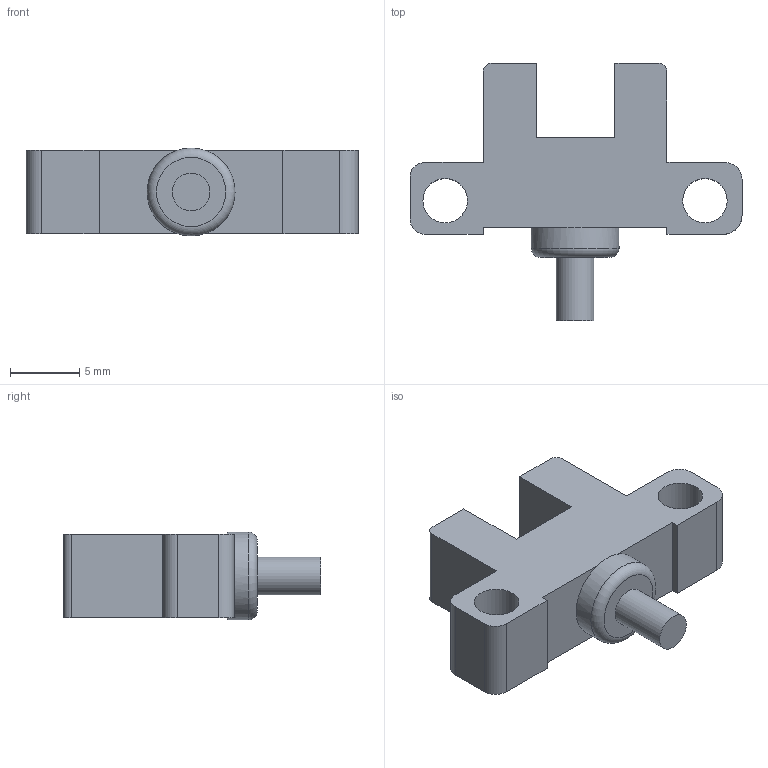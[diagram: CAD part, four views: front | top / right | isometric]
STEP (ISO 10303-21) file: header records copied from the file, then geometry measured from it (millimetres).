
FILE_DESCRIPTION(/* description */ ('Unknown'),/* implementation_level */ '2;1');
FILE_NAME(/* name */ 'PM-K25-P',/* time_stamp */ '2023-02-01T17:33:49+02:00',/* author */ ('Unknown'),/* organization */ ('Unknown'),/* preprocessor_version */ 'ST-DEVELOPER v18.102',/* originating_system */ 'Solid Edge',/* authorisation */ 'Unknown');
FILE_SCHEMA (('AUTOMOTIVE_DESIGN {1 0 10303 214 3 1 1}'));
Length unit declared in the file: millimetre
Products named in the file (1): PM-K25-P
Bounding box: 23.9 x 18.51 x 6.32 mm (x, y, z)
Volume: 1073.9 mm3; surface area: 1013.6 mm2
Topology: 1 solids, 1 shells, 34 faces, 88 edges, 57 vertices
Faces by surface type: plane 23, cylinder 10, torus 1
Full cylindrical faces by diameter (mm): 2.714 x1, 3.2 x2, 6.324 x1
Entity records: 1272 total; most frequent: DIRECTION 176, CARTESIAN_POINT 173, ORIENTED_EDGE 164, EDGE_CURVE 82, AXIS2_PLACEMENT_3D 59, LINE 58, VECTOR 58, VERTEX_POINT 56
